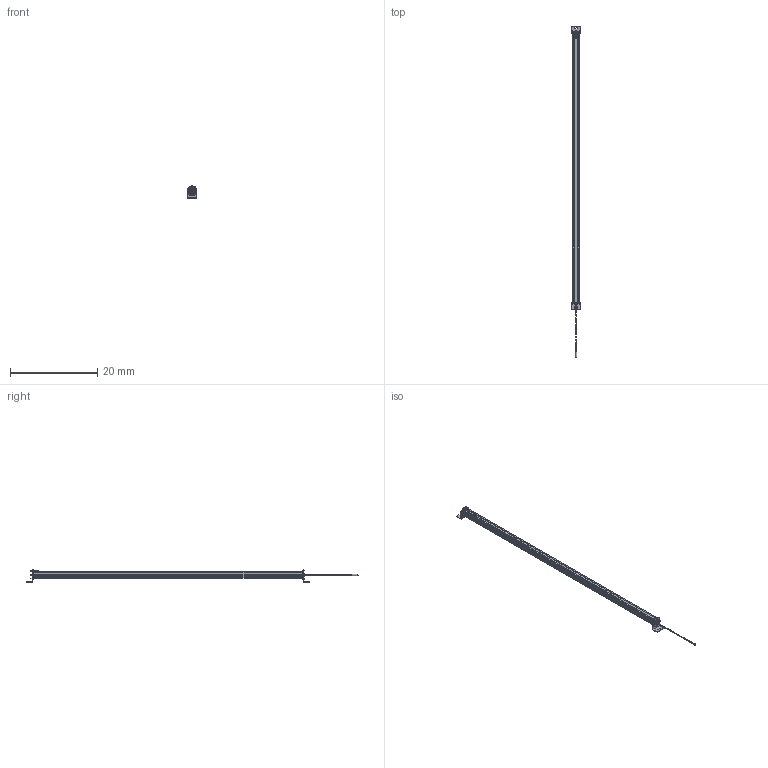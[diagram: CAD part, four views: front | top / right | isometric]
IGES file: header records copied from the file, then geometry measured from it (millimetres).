
Start section:  Autodesk DirectConnect version 7.0.27.0 ---- IGES version 5.3
Global section: file name: C:\ACADFILES\SS_PYLONS\CUSTOMER_FILES\SS-60-PYLON_3D_SMB.iges; native system: Autodesk DirectConnect 7.0.27.0; preprocessor: 7.0.27.0; author: ENGINEERMAIN; organization: Unknown; date: 20150810.125758; units: millimetre
Bounding box: 2.26 x 76.01 x 2.75 mm (x, y, z)
Surface area: 953.2 mm2 (no closed solid volume)
Topology: 0 solids, 0 shells, 754 faces, 3833 edges, 3829 vertices
Faces by surface type: bspline 754
